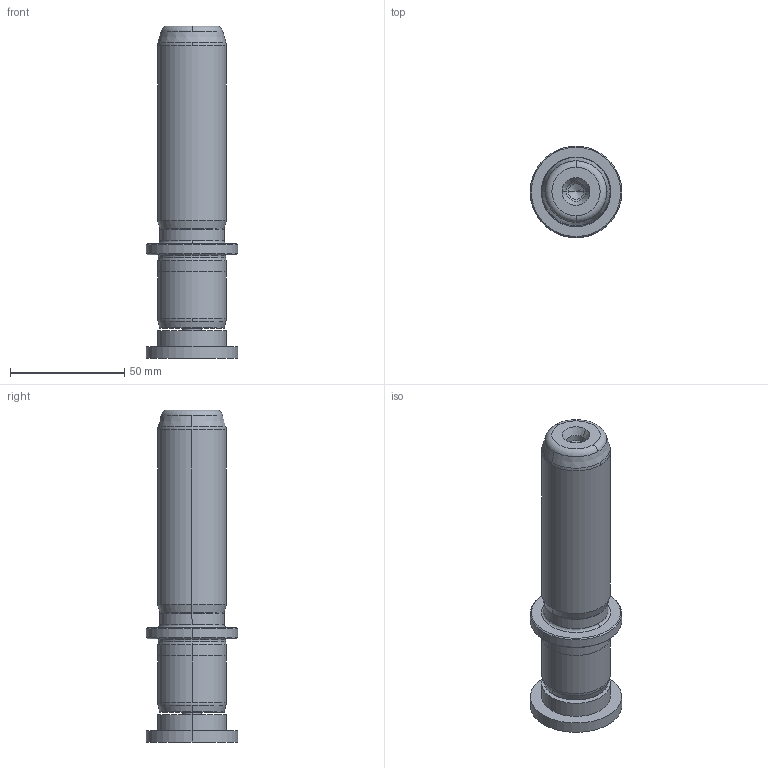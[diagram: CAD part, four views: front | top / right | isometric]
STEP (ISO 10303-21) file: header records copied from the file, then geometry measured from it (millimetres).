
FILE_DESCRIPTION((''),'2;1');
FILE_NAME('P22_030_100.stp','2009-02-03T10:18:43',(''),(''),'Mechanical Desktop 2009','Mechanical Desktop 2009',', , ');
FILE_SCHEMA(('CONFIG_CONTROL_DESIGN'));
Length unit declared in the file: millimetre
Products named in the file (2): Product; blmdl1
Assembly tree (1 placements, depth 2):
  Product
    blmdl1
Bounding box: 40 x 40 x 145 mm (x, y, z)
Volume: 103506.9 mm3; surface area: 21076.3 mm2
Topology: 3 solids, 3 shells, 99 faces, 237 edges, 149 vertices
Faces by surface type: cylinder 32, cone 28, plane 19, torus 10, bspline 10
Entity records: 3419 total; most frequent: CARTESIAN_POINT 923, DIRECTION 570, ORIENTED_EDGE 466, AXIS2_PLACEMENT_3D 246, EDGE_CURVE 233, CIRCLE 155, VERTEX_POINT 149, EDGE_LOOP 110
